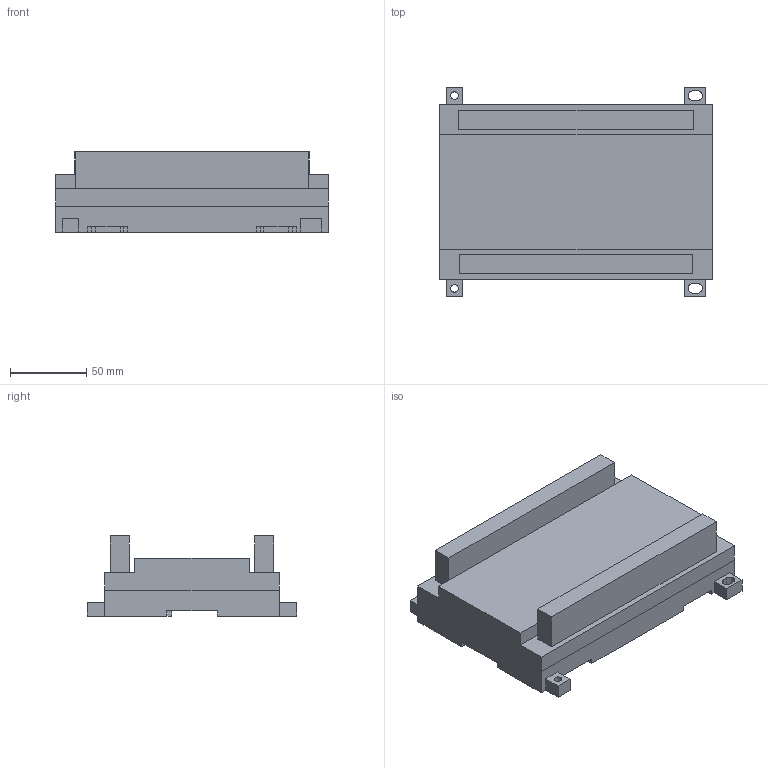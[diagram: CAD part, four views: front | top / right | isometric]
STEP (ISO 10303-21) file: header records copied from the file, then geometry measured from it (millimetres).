
FILE_DESCRIPTION (( 'STEP AP203' ), '1' );
FILE_NAME ('gcn400a-s_3d_model.STEP', '2020-04-14T02:48:56', ( 'Windows 蚚誧' ), ( ' ' ), 'SwSTEP 2.0', 'SolidWorks 2014', '' );
FILE_SCHEMA (( 'CONFIG_CONTROL_DESIGN' ));
Length unit declared in the file: millimetre
Products named in the file (3): gcn400a-s_3d_model; 菁褲; 奻褲
Assembly tree (2 placements, depth 2):
  gcn400a-s_3d_model
    菁褲
    奻褲
Bounding box: 178.47 x 137 x 52.5 mm (x, y, z)
Volume: 497260.3 mm3; surface area: 134443.5 mm2
Topology: 2 solids, 2 shells, 109 faces, 300 edges, 200 vertices
Faces by surface type: plane 99, cylinder 10
Entity records: 3735 total; most frequent: CARTESIAN_POINT 614, ORIENTED_EDGE 600, DIRECTION 548, EDGE_CURVE 300, LINE 280, VECTOR 280, VERTEX_POINT 200, AXIS2_PLACEMENT_3D 134
